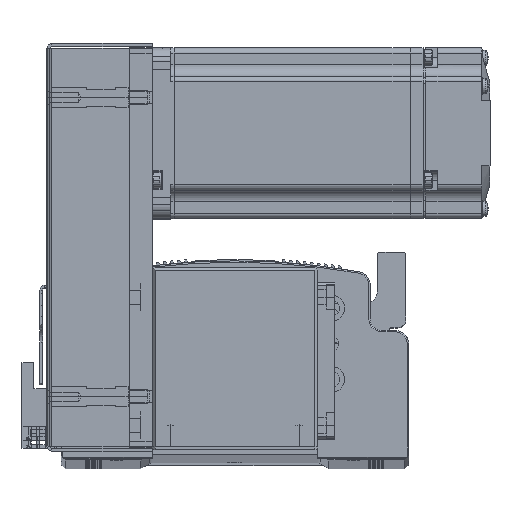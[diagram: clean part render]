
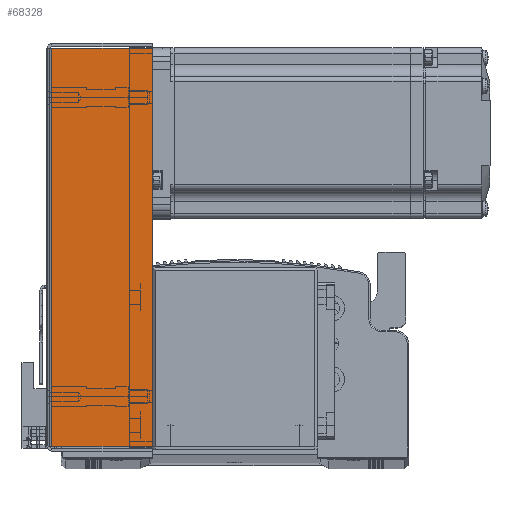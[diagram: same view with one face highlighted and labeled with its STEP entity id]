
A CAD part, top view. The second image highlights one B-rep face of the part: STEP entity #68328.
In plain terms, the highlighted planar face has unit normal (0, 0, 1) as drawn and (0, 0, -1) by its records, which use the part's own axes.
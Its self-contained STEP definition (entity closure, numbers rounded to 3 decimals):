
#16778 = LINE ( 'NONE', #18342, #16833 ) ;
#16791 = VECTOR ( 'NONE', #18282, 1000. ) ;
#16821 = LINE ( 'NONE', #18274, #16791 ) ;
#16833 = VECTOR ( 'NONE', #18302, 1000. ) ;
#16842 = VECTOR ( 'NONE', #18377, 1000. ) ;
#16863 = LINE ( 'NONE', #18378, #16879 ) ;
#16879 = VECTOR ( 'NONE', #18359, 1000. ) ;
#16887 = LINE ( 'NONE', #18376, #16842 ) ;
#18274 = CARTESIAN_POINT ( 'NONE',  ( 69.793, 0., -33.5 ) ) ;
#18282 = DIRECTION ( 'NONE',  ( 0., 1., 0. ) ) ;
#18302 = DIRECTION ( 'NONE',  ( 0., 1., 0. ) ) ;
#18342 = CARTESIAN_POINT ( 'NONE',  ( -69.793, 0., -33.5 ) ) ;
#18359 = DIRECTION ( 'NONE',  ( 1., 0., 0. ) ) ;
#18376 = CARTESIAN_POINT ( 'NONE',  ( 71.5, 0.737, -33.5 ) ) ;
#18377 = DIRECTION ( 'NONE',  ( 1., 0., 0. ) ) ;
#18378 = CARTESIAN_POINT ( 'NONE',  ( 0., 36., -33.5 ) ) ;
#24667 = EDGE_LOOP ( 'NONE', ( #44270, #44290, #44190, #44259 ) ) ;
#30146 = PLANE ( 'NONE',  #32125 ) ;
#30152 = CARTESIAN_POINT ( 'NONE',  ( 0., 0., -33.5 ) ) ;
#30209 = DIRECTION ( 'NONE',  ( 0., 0., 1. ) ) ;
#30247 = DIRECTION ( 'NONE',  ( 0., -1., 0. ) ) ;
#32125 = AXIS2_PLACEMENT_3D ( 'NONE', #30152, #30209, #30247 ) ;
#33417 = FACE_OUTER_BOUND ( 'NONE', #24667, .T. ) ;
#39447 = CARTESIAN_POINT ( 'NONE',  ( 69.793, 36., -33.5 ) ) ;
#39462 = CARTESIAN_POINT ( 'NONE',  ( -69.793, 0.737, -33.5 ) ) ;
#39464 = CARTESIAN_POINT ( 'NONE',  ( -69.793, 36., -33.5 ) ) ;
#39492 = CARTESIAN_POINT ( 'NONE',  ( 69.793, 0.737, -33.5 ) ) ;
#44190 = ORIENTED_EDGE ( 'NONE', *, *, #76294, .T. ) ;
#44259 = ORIENTED_EDGE ( 'NONE', *, *, #76262, .F. ) ;
#44270 = ORIENTED_EDGE ( 'NONE', *, *, #76291, .F. ) ;
#44290 = ORIENTED_EDGE ( 'NONE', *, *, #76270, .T. ) ;
#61815 = VERTEX_POINT ( 'NONE', #39492 ) ;
#61826 = VERTEX_POINT ( 'NONE', #39462 ) ;
#61833 = VERTEX_POINT ( 'NONE', #39464 ) ;
#61899 = VERTEX_POINT ( 'NONE', #39447 ) ;
#68328 = ADVANCED_FACE ( 'NONE', ( #33417 ), #30146, .F. ) ;
#76262 = EDGE_CURVE ( 'NONE', #61815, #61899, #16821, .T. ) ;
#76270 = EDGE_CURVE ( 'NONE', #61826, #61833, #16778, .T. ) ;
#76291 = EDGE_CURVE ( 'NONE', #61826, #61815, #16887, .T. ) ;
#76294 = EDGE_CURVE ( 'NONE', #61833, #61899, #16863, .T. ) ;
